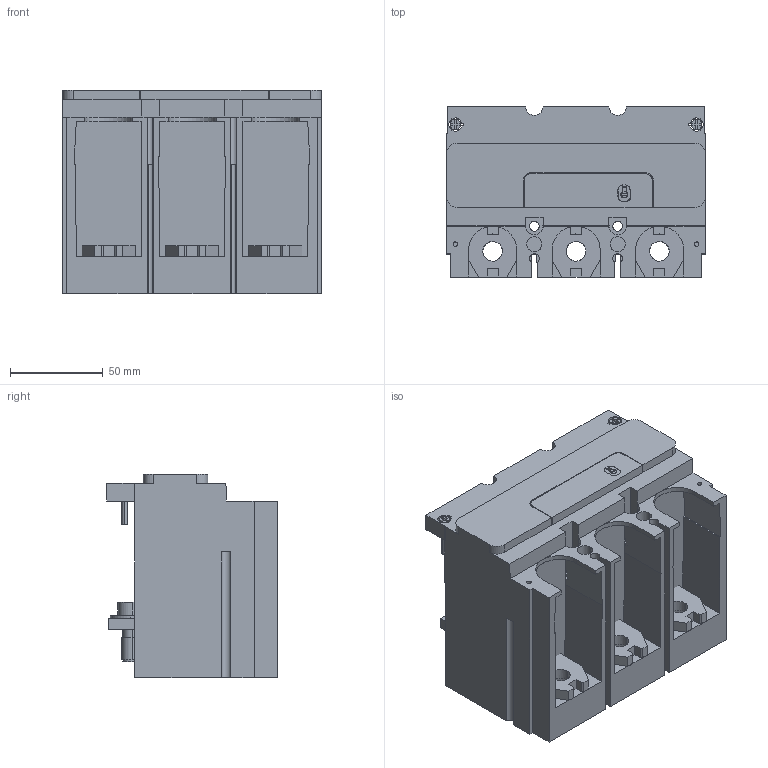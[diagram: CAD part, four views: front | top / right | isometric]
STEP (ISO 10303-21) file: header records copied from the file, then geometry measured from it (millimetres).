
FILE_DESCRIPTION((''),'2;1');
FILE_NAME('ASM0008_ASM','2018-03-23T',('danae.lavaud'),(''),'PRO/ENGINEER BY PARAMETRIC TECHNOLOGY CORPORATION, 2014090','PRO/ENGINEER BY PARAMETRIC TECHNOLOGY CORPORATION, 2014090','');
FILE_SCHEMA(('CONFIG_CONTROL_DESIGN'));
Length unit declared in the file: inch
Products named in the file (15): PRT0055_AF0; PRT0056; PRT0057; ASM0009_ASM; PRT0058; PRT0059; PRT0060; PRT0061; PRT0062; PRT0063; PRT0064; PRT0065; PRT0066; PRT0067; ASM0008_ASM
Assembly tree (14 placements, depth 3):
  ASM0008_ASM
    ASM0009_ASM
      PRT0055_AF0
      PRT0056
      PRT0057
    PRT0058
    PRT0059
    PRT0060
    PRT0061
    PRT0062
    PRT0063
    PRT0064
    PRT0065
    PRT0066
    PRT0067
Bounding box: 139.7 x 92 x 110 mm (x, y, z)
Volume: 736082.4 mm3; surface area: 137872.2 mm2
Topology: 13 solids, 13 shells, 449 faces, 1240 edges, 830 vertices
Faces by surface type: plane 325, cylinder 119, extrusion 5
Entity records: 14936 total; most frequent: CARTESIAN_POINT 2769, ORIENTED_EDGE 2480, DIRECTION 2443, EDGE_CURVE 1240, VECTOR 951, LINE 946, VERTEX_POINT 830, AXIS2_PLACEMENT_3D 746
